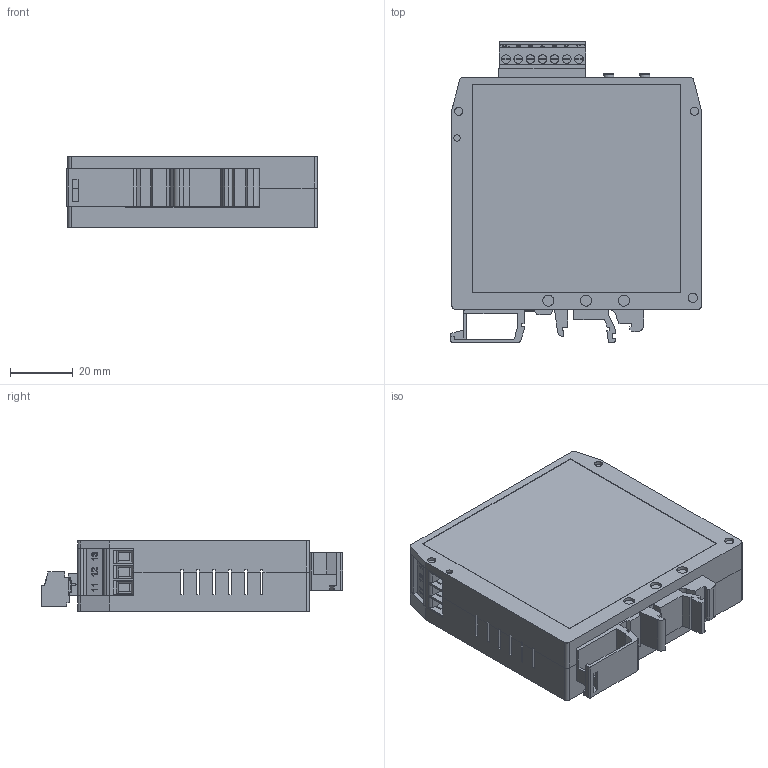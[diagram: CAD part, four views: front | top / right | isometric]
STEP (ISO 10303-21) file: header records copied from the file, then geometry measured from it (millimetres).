
FILE_DESCRIPTION(/* description */ ('Unknown'),/* implementation_level */ '2;1');
FILE_NAME(/* name */ 'LVA2-24-x-xx-x',/* time_stamp */ '2026-04-14T14:12:01+02:00',/* author */ ('Tobias KÃ¤tzlmeier'),/* organization */ ('WayCon Positionsmesstechnik GmbH'),/* preprocessor_version */ 'ST-DEVELOPER v18.104',/* originating_system */ 'Solid Edge',/* authorisation */ 'Unknown');
FILE_SCHEMA (('AUTOMOTIVE_DESIGN {1 0 10303 214 3 1 1}'));
Length unit declared in the file: millimetre
Products named in the file (1): LVA2-24-x-xx-x
Bounding box: 79.6 x 95.65 x 22.44 mm (x, y, z)
Surface area: 38599.2 mm2 (no closed solid volume)
Topology: 0 solids, 29 shells, 748 faces, 2469 edges, 1773 vertices
Faces by surface type: plane 602, cylinder 100, bspline 39, cone 5, torus 2
Full cylindrical faces by diameter (mm): 2 x2, 2.6 x4, 2.75 x7, 3 x3, 3.5 x14, 4 x6
Entity records: 31381 total; most frequent: CARTESIAN_POINT 7184, ORIENTED_EDGE 3964, DIRECTION 3961, EDGE_CURVE 2411, LINE 1951, VECTOR 1951, VERTEX_POINT 1757, AXIS2_PLACEMENT_3D 1005
